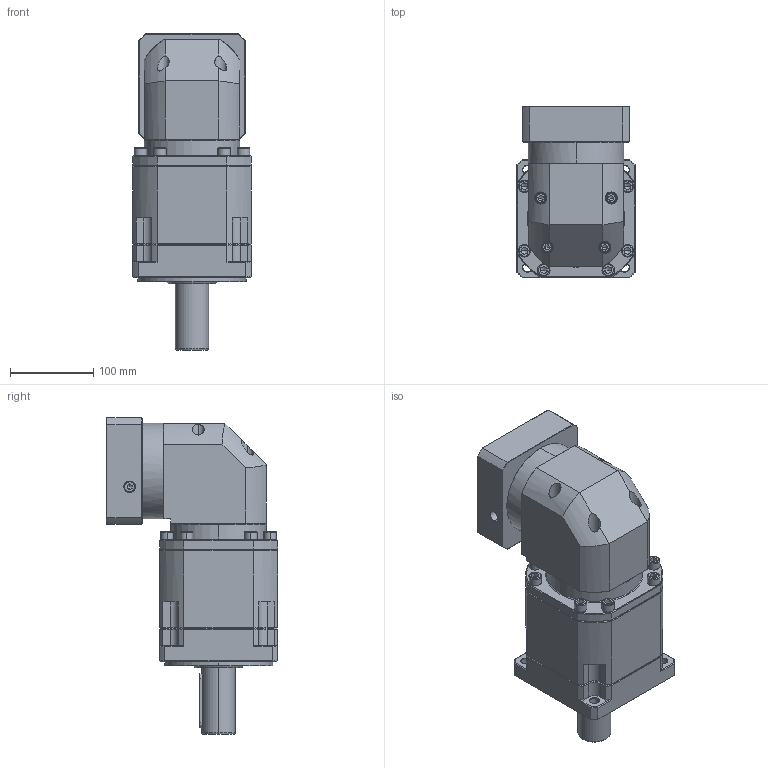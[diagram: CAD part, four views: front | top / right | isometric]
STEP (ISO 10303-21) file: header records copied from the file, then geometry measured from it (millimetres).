
FILE_DESCRIPTION (( 'STEP AP214' ), '1' );
FILE_NAME ('ZBR142A-D40-L3-P2-22-110-145-M8.step', '2023-09-02T08:11:01', ( '' ), ( '' ), 'SwSTEP 2.0', 'SolidWorks 2016', '' );
FILE_SCHEMA (( 'AUTOMOTIVE_DESIGN' ));
Length unit declared in the file: millimetre
Products named in the file (1): ZBR142A-D40-L3-P2-22-110-145-M8
Bounding box: 142 x 205.9 x 380.2 mm (x, y, z)
Volume: 5225873 mm3; surface area: 344494.4 mm2
Topology: 6 solids, 6 shells, 2590 faces, 6731 edges, 4267 vertices
Faces by surface type: plane 1232, cylinder 502, bspline 411, cone 399, torus 46
Entity records: 137022 total; most frequent: CARTESIAN_POINT 48573, ORIENTED_EDGE 13354, DIRECTION 10924, EDGE_CURVE 6677, VECTOR 4274, LINE 4274, VERTEX_POINT 4267, AXIS2_PLACEMENT_3D 3325
